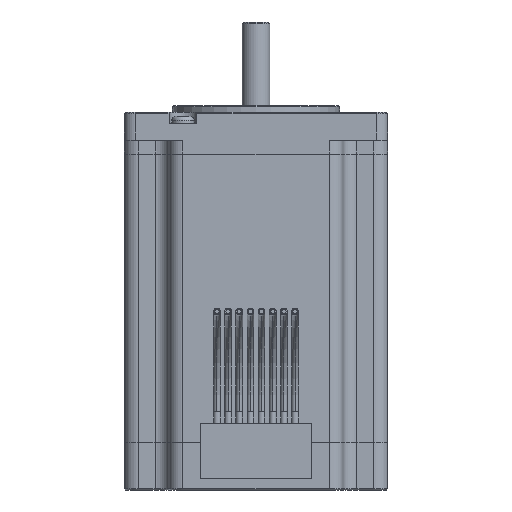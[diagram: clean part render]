
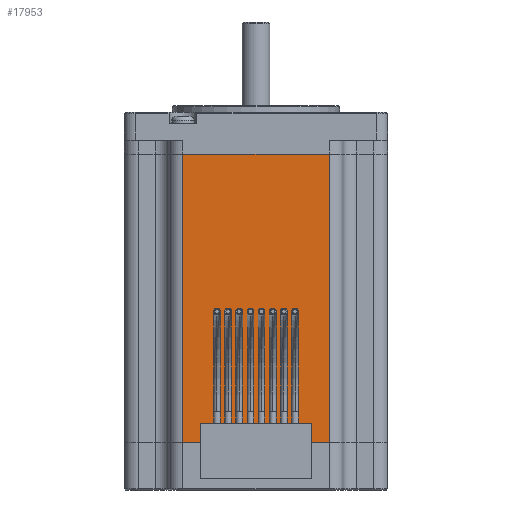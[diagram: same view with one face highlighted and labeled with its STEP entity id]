
A CAD part, front view. The second image highlights one B-rep face of the part: STEP entity #17953.
In plain terms, the highlighted planar face has unit normal (0, -1, 0).
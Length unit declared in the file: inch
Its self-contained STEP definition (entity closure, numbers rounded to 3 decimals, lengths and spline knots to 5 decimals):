
#5896 = VERTEX_POINT ( 'NONE', #11611 ) ;
#5912 = VERTEX_POINT ( 'NONE', #11626 ) ;
#5919 = EDGE_CURVE ( 'NONE', #5896, #5912, #11634, .T. ) ;
#11611 = CARTESIAN_POINT ( 'NONE',  ( 0.655, -1.179, -0.375 ) ) ;
#11615 = CARTESIAN_POINT ( 'NONE',  ( 0.655, -1.179, -0.375 ) ) ;
#11626 = CARTESIAN_POINT ( 'NONE',  ( -0.655, -1.179, -0.375 ) ) ;
#11634 = LINE ( 'NONE', #11615, #11669 ) ;
#11668 = DIRECTION ( 'NONE',  ( -1., 0., 0. ) ) ;
#11669 = VECTOR ( 'NONE', #11668, 39.37008 ) ;
#14186 = DIRECTION ( 'NONE',  ( 0., 0., 1. ) ) ;
#14188 = VECTOR ( 'NONE', #14186, 39.37008 ) ;
#14189 = CARTESIAN_POINT ( 'NONE',  ( 0.655, -1.179, -2.961 ) ) ;
#14190 = LINE ( 'NONE', #14189, #14188 ) ;
#14923 = CARTESIAN_POINT ( 'NONE',  ( 0.655, -1.179, -2.961 ) ) ;
#14981 = ORIENTED_EDGE ( 'NONE', *, *, #17952, .F. ) ;
#15009 = PLANE ( 'NONE',  #15029 ) ;
#15010 = DIRECTION ( 'NONE',  ( -1., 0., 0. ) ) ;
#15011 = VECTOR ( 'NONE', #15010, 39.37008 ) ;
#15012 = CARTESIAN_POINT ( 'NONE',  ( 0.655, -1.179, -2.961 ) ) ;
#15013 = LINE ( 'NONE', #15012, #15011 ) ;
#15022 = FACE_OUTER_BOUND ( 'NONE', #17946, .T. ) ;
#15023 = CARTESIAN_POINT ( 'NONE',  ( -0.655, -1.179, -2.961 ) ) ;
#15029 = AXIS2_PLACEMENT_3D ( 'NONE', #15052, #15050, #15049 ) ;
#15044 = DIRECTION ( 'NONE',  ( 0., 0., 1. ) ) ;
#15045 = VECTOR ( 'NONE', #15044, 39.37008 ) ;
#15046 = CARTESIAN_POINT ( 'NONE',  ( -0.655, -1.179, -2.961 ) ) ;
#15049 = DIRECTION ( 'NONE',  ( -1., 0., 0. ) ) ;
#15050 = DIRECTION ( 'NONE',  ( 0., 1., 0. ) ) ;
#15052 = CARTESIAN_POINT ( 'NONE',  ( 0.655, -1.179, -2.961 ) ) ;
#15053 = LINE ( 'NONE', #15046, #15045 ) ;
#17713 = EDGE_CURVE ( 'NONE', #17943, #5896, #14190, .T. ) ;
#17831 = ORIENTED_EDGE ( 'NONE', *, *, #17713, .T. ) ;
#17943 = VERTEX_POINT ( 'NONE', #14923 ) ;
#17945 = ORIENTED_EDGE ( 'NONE', *, *, #17954, .F. ) ;
#17946 = EDGE_LOOP ( 'NONE', ( #17957, #17945, #14981, #17831 ) ) ;
#17951 = VERTEX_POINT ( 'NONE', #15023 ) ;
#17952 = EDGE_CURVE ( 'NONE', #17943, #17951, #15013, .T. ) ;
#17953 = ADVANCED_FACE ( 'NONE', ( #15022 ), #15009, .F. ) ;
#17954 = EDGE_CURVE ( 'NONE', #17951, #5912, #15053, .T. ) ;
#17957 = ORIENTED_EDGE ( 'NONE', *, *, #5919, .T. ) ;
